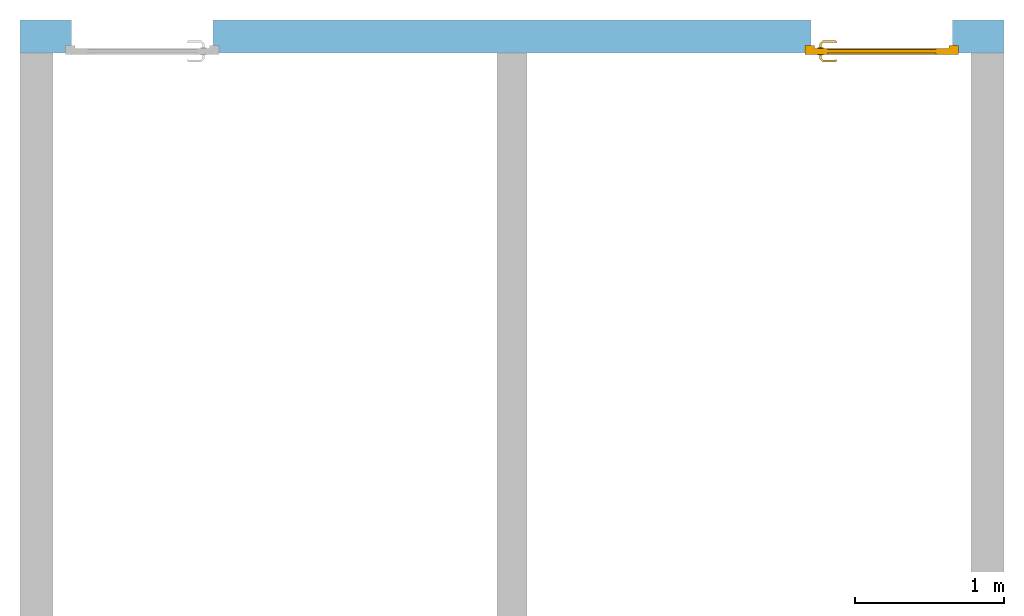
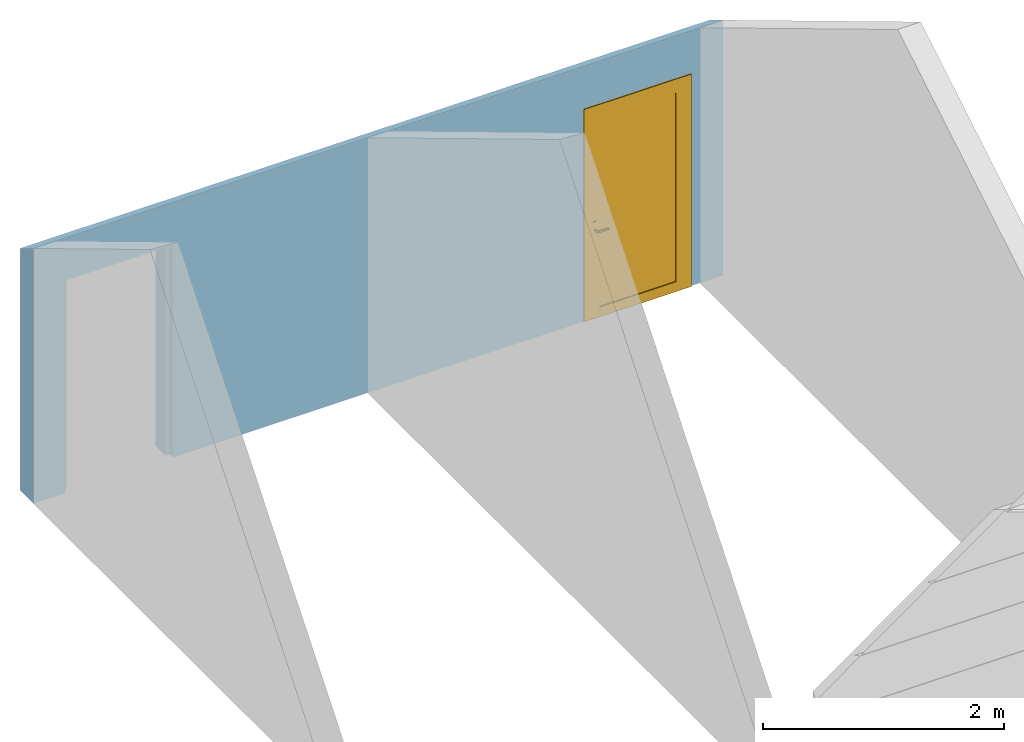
# One storey, part 3 of 3: 1 door, 2 openings, plus 1 element that does not belong to this part.
"""IFC2X3 building model written with IfcOpenShell, lengths in metres."""

from ifc_helpers import new_model, entity, si_unit, converted_unit, derived_unit, direction, frame, frame_2d, origin, place, context, subcontext, project, spatial, polyline, rectangle, extrude, clip, bounded_halfspace, faceted_brep, source, transform, mapped, material, material_list, layer, layer_set, layer_usage, type_object, type_shapes, element, fill, save


model = new_model("IFC2X3")

# Units and contexts
model_context = context("Model", 3, precision=1e-05, world=origin(), true_north=direction((6.12303176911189e-17, 1.0)))
body_context = subcontext(model_context, "Body", "Model", "MODEL_VIEW")
ifc_project = project(units=[si_unit("LENGTHUNIT", "METRE"), si_unit("AREAUNIT", "SQUARE_METRE"), si_unit("VOLUMEUNIT", "CUBIC_METRE"), converted_unit("PLANEANGLEUNIT", "DEGREE", entity("IfcRatioMeasure", 0.0174532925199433), si_unit("PLANEANGLEUNIT", "RADIAN"), dimensions=[0, 0, 0, 0, 0, 0, 0]), si_unit("MASSUNIT", "GRAM", prefix="KILO"), si_unit("TIMEUNIT", "SECOND"), si_unit("FREQUENCYUNIT", "HERTZ"), si_unit("THERMODYNAMICTEMPERATUREUNIT", "DEGREE_CELSIUS"), derived_unit("THERMALTRANSMITTANCEUNIT", [(si_unit("MASSUNIT", "GRAM", prefix="KILO"), 1), (si_unit("THERMODYNAMICTEMPERATUREUNIT", "KELVIN"), -1), (si_unit("TIMEUNIT", "SECOND"), -3)]), derived_unit("VOLUMETRICFLOWRATEUNIT", [(si_unit("LENGTHUNIT", "METRE"), 3), (si_unit("TIMEUNIT", "SECOND"), -1)]), si_unit("ELECTRICCURRENTUNIT", "AMPERE"), si_unit("ELECTRICVOLTAGEUNIT", "VOLT"), si_unit("POWERUNIT", "WATT"), si_unit("FORCEUNIT", "NEWTON", prefix="KILO"), si_unit("ILLUMINANCEUNIT", "LUX"), si_unit("LUMINOUSFLUXUNIT", "LUMEN"), si_unit("LUMINOUSINTENSITYUNIT", "CANDELA"), derived_unit("USERDEFINED", [(si_unit("MASSUNIT", "GRAM", prefix="KILO"), -1), (si_unit("LENGTHUNIT", "METRE"), -2), (si_unit("TIMEUNIT", "SECOND"), 3), (si_unit("LUMINOUSFLUXUNIT", "LUMEN"), 1)]), derived_unit("LINEARVELOCITYUNIT", [(si_unit("LENGTHUNIT", "METRE"), 1), (si_unit("TIMEUNIT", "SECOND"), -1)]), si_unit("PRESSUREUNIT", "PASCAL"), derived_unit("USERDEFINED", [(si_unit("LENGTHUNIT", "METRE"), -2), (si_unit("MASSUNIT", "GRAM", prefix="KILO"), 1), (si_unit("TIMEUNIT", "SECOND"), -2)])], contexts=[model_context])

# Site, building, storey
site_placement = place(None, origin())
site = spatial("IfcSite", under=ifc_project, at=site_placement, Name="Surface", CompositionType="ELEMENT")
building_placement = place(site_placement, origin())
building = spatial("IfcBuilding", under=site, at=building_placement, CompositionType="ELEMENT")
storey_placement = place(building_placement, origin())
storey = spatial("IfcBuildingStorey", under=building, at=storey_placement, Name="Rez de chaussée", CompositionType="ELEMENT", Elevation=0.0)

# Wall, openings, door
ifc_material_1 = material(Name="Maçonnerie - Enduit")
ifc_layer_1 = layer(ifc_material_1, 0.02)
ifc_material_2 = material(Name="Maçonnerie - Béton")
ifc_layer_2 = layer(ifc_material_2, 0.2)
ifc_layer_set = layer_set([ifc_layer_1, ifc_layer_2], Name="Mur de base:Ext.BBM + enduit 22")
ifc_layer_usage = layer_usage(ifc_layer_set, "AXIS2", "NEGATIVE", 0.11)
wall_type = type_object("IfcWallType", Name="Mur de base:Ext.BBM + enduit 22", PredefinedType="STANDARD", material=ifc_layer_set)
wall_placement = place(storey_placement, frame((-3.58506493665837, -14.0835833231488, 0.0)))
wall = element("IfcWallStandardCase", 1, at=wall_placement, inside=storey, type_object=wall_type, material=ifc_layer_usage, Name="Mur de base:Ext.BBM + enduit 22", ObjectType="Mur de base:Ext.BBM + enduit 22", context=body_context, shape_type="Clipping", body=[
    clip(extrude(rectangle(XDim=6.60000000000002, YDim=0.220000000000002, at=frame_2d((3.30000000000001, -2.70616862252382e-16), x_axis=(-1.0, 0.0))), origin(), (0.0, 0.0, 1.0), 2.58218933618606), bounded_halfspace(frame((0.0, -0.109999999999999, 2.58218933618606), z_axis=(0.0, 0.515038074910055, 0.857167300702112), x_axis=(-1.0, 0.0, 0.0)), False, frame((0.0, -0.109999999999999, 2.58218933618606)), polyline([(0.0, 0.0), (0.22, 0.0), (3.2, 0.0), (3.4, 0.0), (6.38000000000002, 0.0), (6.60000000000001, 0.0), (6.60000000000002, 0.219999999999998), (0.0, 0.22), (0.0, 0.0)]))),
])
opening_1_placement = place(wall_placement, frame((0.305000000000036, -0.410000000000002, 0.0)))
element("IfcOpeningElement", 2, at=opening_1_placement, cuts=wall, Name="Mur de base:Ext.BBM + enduit 22", ObjectType="Opening", context=body_context, shape_type="Brep", body=[
    faceted_brep([(0.98999999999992, 0.820000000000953, 2.11000000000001), (0.0400000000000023, 0.820000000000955, 2.11000000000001), (0.0400000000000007, 0.350000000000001, 2.11000000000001), (0.989999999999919, 0.349999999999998, 2.11000000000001), (0.0400000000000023, 0.820000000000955, 0.0), (0.98999999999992, 0.820000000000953, 0.0), (0.989999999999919, 0.349999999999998, 0.0), (1.02999999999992, 0.349999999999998, 0.0), (1.02999999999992, 0.299999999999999, 0.0), (0.989999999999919, 0.299999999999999, 0.0), (0.989999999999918, 0.0, 0.0), (0.0399999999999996, 0.0, 0.0), (0.0400000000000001, 0.300000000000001, 0.0), (0.0, 0.300000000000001, 0.0), (0.0, 0.350000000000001, 0.0), (0.0400000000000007, 0.350000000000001, 0.0), (0.989999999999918, 0.0, 2.11000000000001), (0.0399999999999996, 0.0, 2.11000000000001), (1.02999999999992, 0.299999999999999, 2.15000000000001), (0.0, 0.300000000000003, 2.15000000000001), (0.0400000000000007, 0.300000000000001, 2.11000000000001), (0.989999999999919, 0.299999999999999, 2.11000000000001), (1.02999999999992, 0.349999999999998, 2.15000000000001), (0.0, 0.350000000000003, 2.15000000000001)], [[[0, 1, 2, 3]], [[4, 5, 6, 7, 8, 9, 10, 11, 12, 13, 14, 15]], [[1, 0, 5, 4]], [[5, 0, 3, 6]], [[16, 17, 11, 10]], [[1, 4, 15, 2]], [[9, 8, 18, 19, 13, 12, 20, 21]], [[8, 7, 22, 18]], [[7, 6, 3, 2, 15, 14, 23, 22]], [[19, 18, 22, 23]], [[13, 19, 23, 14]], [[11, 17, 20, 12]], [[16, 10, 9, 21]], [[17, 16, 21, 20]]]),
])
opening_2_placement = place(wall_placement, frame((5.26500000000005, -0.41000000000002, 0.0)))
opening_2 = element("IfcOpeningElement", 3, at=opening_2_placement, cuts=wall, Name="Mur de base:Ext.BBM + enduit 22", ObjectType="Opening", context=body_context, shape_type="Brep", body=[
    faceted_brep([(0.989999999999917, 0.0, 2.11000000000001), (0.989999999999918, 0.299999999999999, 2.11000000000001), (0.0399999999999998, 0.300000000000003, 2.11000000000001), (0.039999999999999, 0.0, 2.11000000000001), (0.98999999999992, 0.820000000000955, 0.0), (0.989999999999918, 0.350000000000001, 0.0), (1.02999999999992, 0.349999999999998, 0.0), (1.02999999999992, 0.299999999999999, 0.0), (0.989999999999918, 0.299999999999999, 0.0), (0.989999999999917, 0.0, 0.0), (0.039999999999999, 0.0, 0.0), (0.0399999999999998, 0.300000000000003, 0.0), (0.0, 0.300000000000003, 0.0), (0.0, 0.350000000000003, 0.0), (0.0399999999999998, 0.350000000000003, 0.0), (0.0400000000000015, 0.820000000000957, 0.0), (0.98999999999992, 0.820000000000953, 2.11000000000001), (0.0400000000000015, 0.820000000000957, 2.11000000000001), (0.989999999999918, 0.350000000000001, 2.11000000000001), (1.02999999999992, 0.299999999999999, 2.15000000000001), (0.0, 0.300000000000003, 2.15000000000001), (0.0, 0.350000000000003, 2.15000000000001), (1.02999999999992, 0.349999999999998, 2.15000000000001), (0.0399999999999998, 0.350000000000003, 2.11000000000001)], [[[0, 1, 2, 3]], [[4, 5, 6, 7, 8, 9, 10, 11, 12, 13, 14, 15]], [[16, 4, 15, 17]], [[3, 2, 11, 10]], [[3, 10, 9, 0]], [[16, 18, 5, 4]], [[11, 2, 1, 8, 7, 19, 20, 12]], [[12, 20, 21, 13]], [[13, 21, 22, 6, 5, 18, 23, 14]], [[19, 22, 21, 20]], [[7, 6, 22, 19]], [[9, 8, 1, 0]], [[15, 14, 23, 17]], [[17, 23, 18, 16]]]),
])
ifc_material_3 = material(Name="Poignée PVC")
ifc_material_4 = material(Name="PVC Blanc")
ifc_material_list_1 = material_list([ifc_material_3, ifc_material_4])
ifc_material_list_2 = material_list([ifc_material_3, ifc_material_4])
door_style = type_object("IfcDoorStyle", Name="93 x 210 - (90)", ConstructionType="NOTDEFINED", OperationType="SINGLE_SWING_LEFT", ParameterTakesPrecedence=False, Sizeable=False, material=ifc_material_list_2)
shared_shape = source(origin(), body_context, "Body", "Brep", [
    faceted_brep([(0.102974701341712, -0.485000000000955, 0.892219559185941), (0.107025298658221, -0.485000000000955, 0.892219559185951), (0.110999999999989, -0.485000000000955, 0.893000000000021), (0.110999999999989, -0.485000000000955, 0.90699999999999), (0.10702529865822, -0.485000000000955, 0.907780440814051), (0.10297470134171, -0.485000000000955, 0.907780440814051), (0.0989999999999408, -0.485000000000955, 0.90699999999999), (0.0989999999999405, -0.485000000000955, 0.892999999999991), (0.110999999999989, -0.462514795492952, 0.893000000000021), (0.110999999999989, -0.462514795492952, 0.90699999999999), (0.10702529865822, -0.460868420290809, 0.907780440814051), (0.120838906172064, -0.447054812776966, 0.907780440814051), (0.119161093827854, -0.443004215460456, 0.907780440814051), (0.102974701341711, -0.459190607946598, 0.907780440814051), (0.210684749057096, -0.453532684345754, 0.907780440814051), (0.213548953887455, -0.450668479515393, 0.907780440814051), (0.205884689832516, -0.443004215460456, 0.907780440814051), (0.204206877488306, -0.447054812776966, 0.907780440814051), (0.098999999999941, -0.457544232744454, 0.90699999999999), (0.0989999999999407, -0.457544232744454, 0.892999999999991), (0.102974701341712, -0.459190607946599, 0.892219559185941), (0.119161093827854, -0.443004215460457, 0.892219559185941), (0.120838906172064, -0.447054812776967, 0.892219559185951), (0.107025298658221, -0.460868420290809, 0.892219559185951), (0.213548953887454, -0.450668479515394, 0.89221955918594), (0.210684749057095, -0.453532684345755, 0.89221955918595), (0.204206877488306, -0.447054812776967, 0.89221955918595), (0.205884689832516, -0.443004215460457, 0.89221955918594), (0.122485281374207, -0.451029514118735, 0.893000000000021), (0.122485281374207, -0.451029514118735, 0.90699999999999), (0.117514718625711, -0.439029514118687, 0.90699999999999), (0.11751471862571, -0.439029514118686, 0.892999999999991), (0.162522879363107, -0.451029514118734, 0.89300000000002), (0.202560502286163, -0.451029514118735, 0.89300000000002), (0.202560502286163, -0.451029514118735, 0.90699999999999), (0.162522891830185, -0.451029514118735, 0.90699999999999), (0.162522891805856, -0.444875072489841, 0.907878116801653), (0.207531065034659, -0.439029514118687, 0.90699999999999), (0.16760057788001, -0.439029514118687, 0.90699999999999), (0.207531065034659, -0.439029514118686, 0.892999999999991), (0.157445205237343, -0.439029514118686, 0.892999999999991), (0.162522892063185, -0.444875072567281, 0.892121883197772), (0.20787421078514, -0.45634322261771, 0.89300000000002), (0.216359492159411, -0.447857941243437, 0.892999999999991), (0.216359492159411, -0.447857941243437, 0.90699999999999), (0.20787421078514, -0.45634322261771, 0.90699999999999)], [[[0, 1, 2, 3, 4, 5, 6, 7]], [[3, 2, 8, 9]], [[9, 10, 4, 3]], [[10, 11, 12, 13, 5, 4]], [[14, 15, 16, 17]], [[13, 18, 6, 5]], [[7, 6, 18, 19]], [[19, 20, 0, 7]], [[20, 21, 22, 23, 1, 0]], [[24, 25, 26, 27]], [[23, 8, 2, 1]], [[9, 8, 28, 29]], [[29, 11, 10, 9]], [[12, 30, 18, 13]], [[19, 18, 30, 31]], [[31, 21, 20, 19]], [[22, 28, 8, 23]], [[28, 32, 33, 34, 35, 29]], [[11, 35, 36]], [[16, 37, 38]], [[30, 12, 38]], [[38, 12, 36]], [[36, 35, 17]], [[17, 16, 36]], [[35, 11, 29]], [[34, 17, 35]], [[11, 36, 12]], [[38, 36, 16]], [[31, 30, 38, 37, 39, 40]], [[40, 41, 21]], [[41, 40, 27]], [[21, 31, 40]], [[39, 27, 40]], [[41, 32, 22]], [[22, 21, 41]], [[26, 32, 41]], [[28, 22, 32]], [[32, 26, 33]], [[26, 41, 27]], [[42, 25, 24, 43, 44, 15, 14, 45]], [[34, 33, 42, 45]], [[45, 14, 17, 34]], [[15, 44, 37, 16]], [[39, 37, 44, 43]], [[43, 24, 27, 39]], [[25, 42, 33, 26]]]),
    faceted_brep([(0.102974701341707, -0.535000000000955, 0.907780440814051), (0.107025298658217, -0.535000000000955, 0.907780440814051), (0.110999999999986, -0.535000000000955, 0.906999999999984), (0.110999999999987, -0.535000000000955, 0.893000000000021), (0.107025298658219, -0.535000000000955, 0.89221955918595), (0.102974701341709, -0.535000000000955, 0.892219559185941), (0.0989999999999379, -0.535000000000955, 0.892999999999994), (0.0989999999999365, -0.535000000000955, 0.90699999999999), (0.0989999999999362, -0.562650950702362, 0.906999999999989), (0.102974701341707, -0.561004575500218, 0.907780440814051), (0.119023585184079, -0.57705345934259, 0.907780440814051), (0.12070139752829, -0.573002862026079, 0.907780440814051), (0.107025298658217, -0.559326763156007, 0.907780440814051), (0.21352181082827, -0.569389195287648, 0.90778044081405), (0.210657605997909, -0.566524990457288, 0.90778044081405), (0.204179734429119, -0.573002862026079, 0.90778044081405), (0.20585754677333, -0.57705345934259, 0.90778044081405), (0.110999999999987, -0.557680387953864, 0.90699999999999), (0.110999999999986, -0.557680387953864, 0.893000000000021), (0.107025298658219, -0.559326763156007, 0.89221955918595), (0.120701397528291, -0.573002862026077, 0.89221955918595), (0.11902358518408, -0.577053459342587, 0.89221955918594), (0.102974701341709, -0.561004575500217, 0.89221955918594), (0.210657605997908, -0.566524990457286, 0.89221955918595), (0.213521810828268, -0.569389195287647, 0.89221955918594), (0.205857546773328, -0.577053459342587, 0.89221955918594), (0.204179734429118, -0.573002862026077, 0.89221955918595), (0.0989999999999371, -0.562650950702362, 0.892999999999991), (0.117377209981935, -0.58102816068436, 0.906999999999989), (0.122347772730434, -0.569028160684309, 0.90699999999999), (0.122347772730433, -0.56902816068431, 0.893000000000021), (0.117377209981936, -0.581028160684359, 0.892999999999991), (0.157307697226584, -0.58102816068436, 0.906999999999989), (0.162440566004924, -0.575182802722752, 0.907878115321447), (0.207503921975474, -0.58102816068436, 0.906999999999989), (0.162440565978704, -0.569028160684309, 0.90699999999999), (0.202533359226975, -0.569028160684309, 0.906999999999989), (0.202533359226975, -0.56902816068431, 0.89300000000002), (0.162440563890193, -0.569028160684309, 0.893000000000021), (0.162440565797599, -0.575182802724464, 0.892121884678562), (0.207503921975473, -0.581028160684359, 0.892999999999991), (0.167573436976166, -0.581028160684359, 0.892999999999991), (0.207847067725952, -0.563714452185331, 0.906999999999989), (0.216332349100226, -0.572199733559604, 0.906999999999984), (0.216332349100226, -0.572199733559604, 0.892999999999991), (0.207847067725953, -0.563714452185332, 0.893000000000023)], [[[0, 1, 2, 3, 4, 5, 6, 7]], [[8, 9, 0, 7]], [[9, 10, 11, 12, 1, 0]], [[13, 14, 15, 16]], [[12, 17, 2, 1]], [[3, 2, 17, 18]], [[18, 19, 4, 3]], [[19, 20, 21, 22, 5, 4]], [[23, 24, 25, 26]], [[22, 27, 6, 5]], [[7, 6, 27, 8]], [[28, 10, 9, 8]], [[11, 29, 17, 12]], [[18, 17, 29, 30]], [[30, 20, 19, 18]], [[21, 31, 27, 22]], [[8, 27, 31, 28]], [[32, 33, 10]], [[33, 32, 16]], [[10, 28, 32]], [[34, 16, 32]], [[33, 35, 11]], [[11, 10, 33]], [[15, 35, 33]], [[29, 11, 35]], [[35, 15, 36]], [[15, 33, 16]], [[30, 29, 35, 36, 37, 38]], [[20, 38, 39]], [[25, 40, 41]], [[31, 21, 41]], [[41, 21, 39]], [[39, 38, 26]], [[26, 25, 39]], [[38, 20, 30]], [[37, 26, 38]], [[20, 39, 21]], [[41, 39, 25]], [[28, 31, 41, 40, 34, 32]], [[42, 14, 13, 43, 44, 24, 23, 45]], [[43, 13, 16, 34]], [[14, 42, 36, 15]], [[37, 36, 42, 45]], [[45, 23, 26, 37]], [[24, 44, 40, 25]], [[34, 40, 44, 43]]]),
    faceted_brep([(0.11535276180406, -0.490000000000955, 0.766003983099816), (0.124999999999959, -0.490000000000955, 0.770000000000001), (0.124999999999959, -0.490000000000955, 0.980000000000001), (0.11535276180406, -0.490000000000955, 0.983996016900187), (0.104999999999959, -0.490000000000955, 0.985358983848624), (0.0946472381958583, -0.490000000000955, 0.983996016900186), (0.0849999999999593, -0.490000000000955, 0.980000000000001), (0.0849999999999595, -0.490000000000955, 0.770000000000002), (0.0946472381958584, -0.490000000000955, 0.766003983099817), (0.104999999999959, -0.490000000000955, 0.764641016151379), (0.11535276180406, -0.485000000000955, 0.983996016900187), (0.124999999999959, -0.485000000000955, 0.980000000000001), (0.124999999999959, -0.485000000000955, 0.770000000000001), (0.11535276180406, -0.485000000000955, 0.766003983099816), (0.104999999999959, -0.485000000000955, 0.764641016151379), (0.0946472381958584, -0.485000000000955, 0.766003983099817), (0.0849999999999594, -0.485000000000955, 0.770000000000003), (0.0849999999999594, -0.485000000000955, 0.980000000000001), (0.0946472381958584, -0.485000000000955, 0.983996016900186), (0.104999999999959, -0.485000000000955, 0.985358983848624)], [[[0, 1, 2, 3, 4, 5, 6, 7, 8, 9]], [[10, 11, 12, 13, 14, 15, 16, 17, 18, 19]], [[11, 10, 3, 2]], [[3, 10, 19, 4]], [[19, 18, 5, 4]], [[18, 17, 6, 5]], [[7, 6, 17, 16]], [[16, 15, 8, 7]], [[8, 15, 14, 9]], [[14, 13, 0, 9]], [[13, 12, 1, 0]], [[2, 1, 12, 11]]]),
    faceted_brep([(0.115352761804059, -0.535000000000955, 0.766003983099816), (0.124999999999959, -0.535000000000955, 0.770000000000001), (0.124999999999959, -0.535000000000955, 0.980000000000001), (0.11535276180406, -0.535000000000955, 0.983996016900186), (0.104999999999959, -0.535000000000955, 0.985358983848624), (0.0946472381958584, -0.535000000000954, 0.983996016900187), (0.0849999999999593, -0.535000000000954, 0.980000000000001), (0.0849999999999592, -0.535000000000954, 0.770000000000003), (0.094647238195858, -0.535000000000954, 0.766003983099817), (0.104999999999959, -0.535000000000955, 0.764641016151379), (0.11535276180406, -0.530000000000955, 0.983996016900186), (0.124999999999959, -0.530000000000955, 0.980000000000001), (0.124999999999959, -0.530000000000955, 0.770000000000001), (0.115352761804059, -0.530000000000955, 0.766003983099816), (0.104999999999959, -0.530000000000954, 0.764641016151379), (0.094647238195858, -0.530000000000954, 0.766003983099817), (0.0849999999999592, -0.530000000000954, 0.770000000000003), (0.0849999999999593, -0.530000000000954, 0.980000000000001), (0.0946472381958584, -0.530000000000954, 0.983996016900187), (0.104999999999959, -0.530000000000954, 0.985358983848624)], [[[0, 1, 2, 3, 4, 5, 6, 7, 8, 9]], [[10, 11, 12, 13, 14, 15, 16, 17, 18, 19]], [[16, 15, 8, 7]], [[8, 15, 14, 9]], [[14, 13, 0, 9]], [[13, 12, 1, 0]], [[2, 1, 12, 11]], [[11, 10, 3, 2]], [[3, 10, 19, 4]], [[19, 18, 5, 4]], [[18, 17, 6, 5]], [[7, 6, 17, 16]]]),
    faceted_brep([(0.0, -0.530000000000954, 0.0), (0.0, -0.470000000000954, 0.0), (0.0649999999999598, -0.470000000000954, 0.0), (0.0649999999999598, -0.490000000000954, 0.0), (0.0499999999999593, -0.490000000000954, 0.0), (0.0499999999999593, -0.530000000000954, 0.0), (0.0, -0.530000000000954, 2.15000000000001), (0.0, -0.470000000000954, 2.15000000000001), (1.02999999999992, -0.470000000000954, 2.15000000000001), (1.02999999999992, -0.470000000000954, 0.0), (0.964999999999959, -0.470000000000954, 0.0), (0.964999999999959, -0.470000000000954, 2.08500000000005), (0.0649999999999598, -0.470000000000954, 2.08500000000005), (0.0649999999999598, -0.490000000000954, 2.08500000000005), (0.964999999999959, -0.490000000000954, 2.08500000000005), (0.964999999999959, -0.490000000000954, 0.0), (0.979999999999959, -0.490000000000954, 0.0), (0.979999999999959, -0.490000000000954, 2.10000000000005), (0.0499999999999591, -0.490000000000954, 2.10000000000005), (0.0499999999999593, -0.530000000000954, 2.10000000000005), (0.97999999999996, -0.530000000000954, 2.10000000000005), (0.97999999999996, -0.530000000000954, 0.0), (1.02999999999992, -0.530000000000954, 0.0), (1.02999999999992, -0.530000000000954, 2.15000000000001)], [[[0, 1, 2, 3, 4, 5]], [[1, 0, 6, 7]], [[2, 1, 7, 8, 9, 10, 11, 12]], [[3, 2, 12, 13]], [[4, 3, 13, 14, 15, 16, 17, 18]], [[5, 4, 18, 19]], [[0, 5, 19, 20, 21, 22, 23, 6]], [[9, 8, 23, 22]], [[10, 9, 22, 21, 16, 15]], [[11, 10, 15, 14]], [[17, 16, 21, 20]], [[7, 6, 23, 8]], [[12, 11, 14, 13]], [[18, 17, 20, 19]]]),
    faceted_brep([(0.0499999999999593, -0.530000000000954, 2.10000000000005), (0.0499999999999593, -0.530000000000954, 0.0), (0.979999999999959, -0.530000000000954, 0.0), (0.979999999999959, -0.530000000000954, 2.10000000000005), (0.880000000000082, -0.530000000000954, 2.01000000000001), (0.88000000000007, -0.530000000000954, 0.0999999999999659), (0.150000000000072, -0.530000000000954, 0.0999999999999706), (0.150000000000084, -0.530000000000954, 2.01000000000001), (0.0499999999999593, -0.490000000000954, 2.10000000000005), (0.979999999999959, -0.490000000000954, 2.10000000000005), (0.979999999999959, -0.490000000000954, 0.0), (0.0499999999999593, -0.490000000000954, 0.0), (0.150000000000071, -0.490000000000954, 2.01000000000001), (0.150000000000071, -0.490000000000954, 0.100000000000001), (0.880000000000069, -0.490000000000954, 0.100000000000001), (0.880000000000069, -0.490000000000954, 2.01000000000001), (0.880000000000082, -0.522000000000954, 2.01000000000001), (0.150000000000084, -0.522000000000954, 2.01000000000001), (0.150000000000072, -0.522000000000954, 0.0999999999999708), (0.88000000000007, -0.522000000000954, 0.0999999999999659), (0.150000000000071, -0.498000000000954, 2.01000000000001), (0.880000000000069, -0.498000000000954, 2.01000000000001), (0.880000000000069, -0.498000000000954, 0.100000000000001), (0.150000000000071, -0.498000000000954, 0.100000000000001)], [[[0, 1, 2, 3], [4, 5, 6, 7]], [[8, 9, 10, 11], [12, 13, 14, 15]], [[1, 0, 8, 11]], [[2, 1, 11, 10]], [[3, 2, 10, 9]], [[0, 3, 9, 8]], [[16, 17, 18, 19]], [[16, 19, 5, 4]], [[19, 18, 6, 5]], [[18, 17, 7, 6]], [[17, 16, 4, 7]], [[20, 21, 22, 23]], [[20, 23, 13, 12]], [[23, 22, 14, 13]], [[22, 21, 15, 14]], [[21, 20, 12, 15]]]),
])
type_shapes(door_style, [shared_shape])
door_placement = place(opening_2_placement, frame((0.0, 0.820000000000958, 0.0)))
door = element("IfcDoor", 4, at=door_placement, inside=storey, type_object=door_style, material=ifc_material_list_1, Name="FR_PVC Panneau Plein:93 x 210 - (90)", ObjectType="93 x 210 - (90)", OverallHeight=2.15000000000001, OverallWidth=1.02999999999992, context=body_context, shape_type="MappedRepresentation", body=[
    mapped(shared_shape, transform((0.0, 0.0, 0.0), scale=1.0)),
])
fill(opening_2, door)

save(model, "model.ifc")
